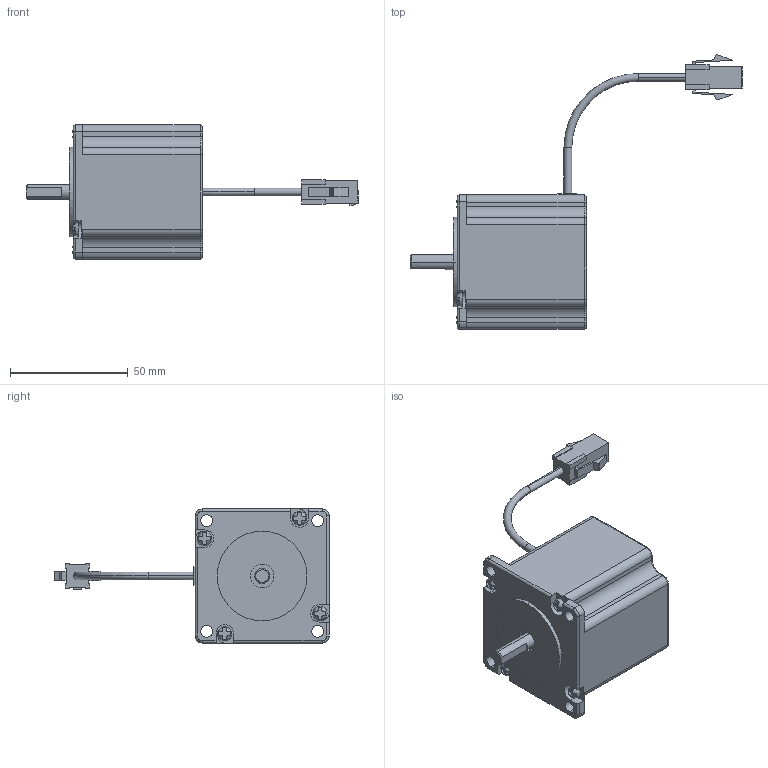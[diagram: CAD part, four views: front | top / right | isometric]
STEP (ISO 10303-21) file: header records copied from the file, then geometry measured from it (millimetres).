
FILE_DESCRIPTION (( 'STEP AP203' ), '1' );
FILE_NAME ('P21-MO-056-02-R00.STEP', '2015-06-30T08:15:13', ( '' ), ( '' ), 'SwSTEP 2.0', 'SolidWorks 2013', '' );
FILE_SCHEMA (( 'CONFIG_CONTROL_DESIGN' ));
Length unit declared in the file: millimetre
Products named in the file (3): M21-MO-056-02-R00; Power_Cable_ル遽; P21-MO-056-02-R00
Assembly tree (2 placements, depth 2):
  P21-MO-056-02-R00
    M21-MO-056-02-R00
    Power_Cable_ル遽
Bounding box: 141.07 x 116.61 x 57 mm (x, y, z)
Volume: 163483 mm3; surface area: 22804.3 mm2
Topology: 6 solids, 6 shells, 290 faces, 748 edges, 483 vertices
Faces by surface type: plane 179, cylinder 87, bspline 20, cone 2, torus 2
Entity records: 9834 total; most frequent: CARTESIAN_POINT 2500, ORIENTED_EDGE 1480, DIRECTION 1432, EDGE_CURVE 740, VERTEX_POINT 483, LINE 482, VECTOR 482, AXIS2_PLACEMENT_3D 475
